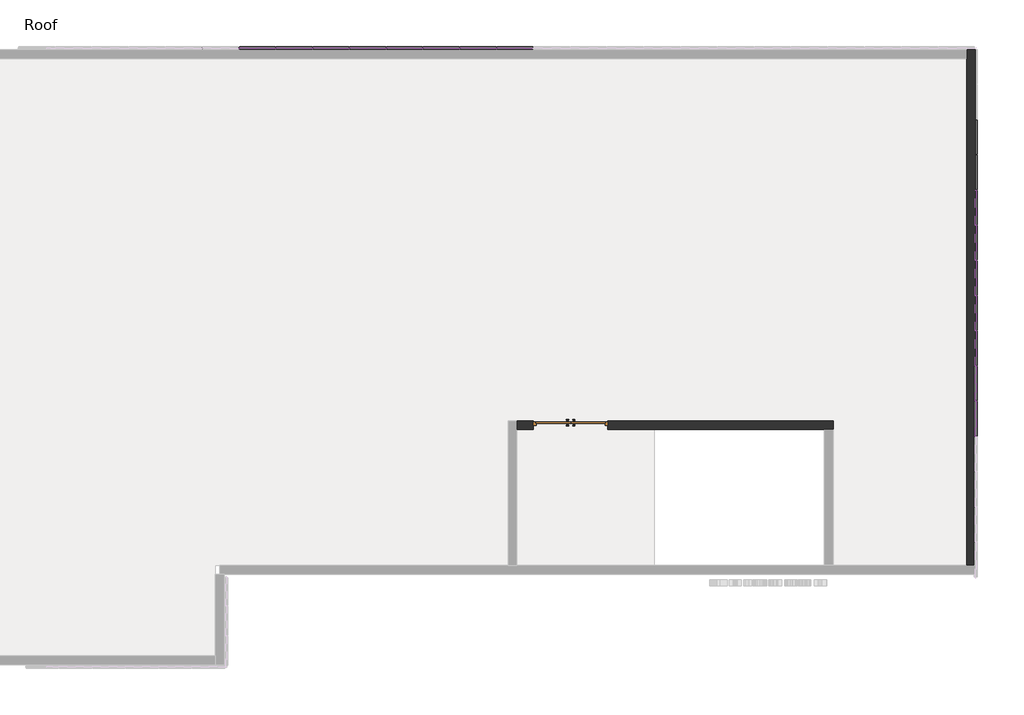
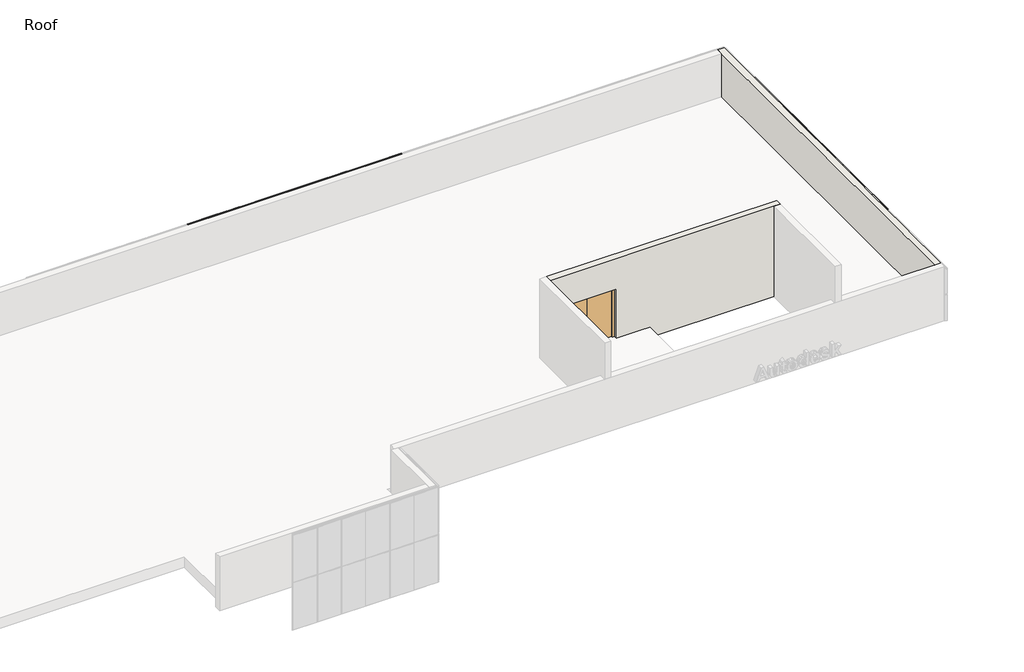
# One storey, part 4 of 5: 79 members, 34 plates, 2 walls, 1 door.
"""IFC4 building model written with IfcOpenShell, lengths in millimetres."""

from ifc_helpers import new_model, si_unit, origin, place, context, project, spatial, faceted_brep, transform, mapped, element, save
from components import doors_extdbl_flush_fire_escape_1810x2110mm_d119a109, rectangular_mullion_25x25mm_ef735152, rectangular_mullion_25x25mm_e862664b, rectangular_mullion_25x25mm_75dba7a0, rectangular_mullion_25x25mm_4965c664, rectangular_mullion_25x25mm_c76a5620, curtain_panels_solid_solid_panel_green_f9f5bd6f, curtain_panels_solid_solid_panel_green_e697928e

model = new_model("IFC4")

# Units and contexts
model_context = context("Model", 3, world=origin())
ifc_project = project(units=[si_unit("LENGTHUNIT", "METRE", prefix="MILLI")], contexts=[model_context])

# Site, building, storey
site = spatial("IfcSite", under=ifc_project)
building = spatial("IfcBuilding", under=site)
storey = spatial("IfcBuildingStorey", under=building, Name="Roof", Elevation=14600.0)

# Door
placement = place(None, origin())
doors_extdbl_flush_fire_escape_1810x2110mm_shape = doors_extdbl_flush_fire_escape_1810x2110mm_d119a109(model_context)
element("IfcDoor", 1, ObjectType="Doors_ExtDbl_Flush_Fire_Escape : 1810x2110mm", at=placement, inside=storey, context=model_context, shape_type="MappedRepresentation", body=[
    mapped(doors_extdbl_flush_fire_escape_1810x2110mm_shape, transform((33256.9942371, 149.3025492, 14600.0), x_axis=(-1.0, 0.0, 0.0), y_axis=(0.0, -1.0, 0.0), z_axis=(0.0, 0.0, 1.0))),
])

# Members
rectangular_mullion_25x25mm_shape = rectangular_mullion_25x25mm_ef735152(model_context)
element("IfcMember", 2, ObjectType="Rectangular Mullion : 25x25mm", at=placement, inside=storey, context=model_context, shape_type="MappedRepresentation", body=[
    mapped(rectangular_mullion_25x25mm_shape, transform((24301.6172819, 9309.2487558, 14625.0), x_axis=(-1.0, 0.0, 0.0), y_axis=(0.0, 1.0, 0.0), z_axis=(0.0, 0.0, -1.0))),
])
element("IfcMember", 3, ObjectType="Rectangular Mullion : 25x25mm", at=placement, inside=storey, context=model_context, shape_type="MappedRepresentation", body=[
    mapped(rectangular_mullion_25x25mm_shape, transform((25195.8876131, 9309.2487558, 14625.0), x_axis=(-1.0, 0.0, 0.0), y_axis=(0.0, 1.0, 0.0), z_axis=(0.0, 0.0, -1.0))),
])
element("IfcMember", 4, ObjectType="Rectangular Mullion : 25x25mm", at=placement, inside=storey, context=model_context, shape_type="MappedRepresentation", body=[
    mapped(rectangular_mullion_25x25mm_shape, transform((26090.1579442, 9309.2487558, 14625.0), x_axis=(-1.0, 0.0, 0.0), y_axis=(0.0, 1.0, 0.0), z_axis=(0.0, 0.0, -1.0))),
])
element("IfcMember", 5, ObjectType="Rectangular Mullion : 25x25mm", at=placement, inside=storey, context=model_context, shape_type="MappedRepresentation", body=[
    mapped(rectangular_mullion_25x25mm_shape, transform((26984.4282754, 9309.2487558, 14625.0), x_axis=(-1.0, 0.0, 0.0), y_axis=(0.0, 1.0, 0.0), z_axis=(0.0, 0.0, -1.0))),
])
element("IfcMember", 6, ObjectType="Rectangular Mullion : 25x25mm", at=placement, inside=storey, context=model_context, shape_type="MappedRepresentation", body=[
    mapped(rectangular_mullion_25x25mm_shape, transform((27878.6986066, 9309.2487558, 14625.0), x_axis=(-1.0, 0.0, 0.0), y_axis=(0.0, 1.0, 0.0), z_axis=(0.0, 0.0, -1.0))),
])
element("IfcMember", 7, ObjectType="Rectangular Mullion : 25x25mm", at=placement, inside=storey, context=model_context, shape_type="MappedRepresentation", body=[
    mapped(rectangular_mullion_25x25mm_shape, transform((28772.9689377, 9309.2487558, 14625.0), x_axis=(-1.0, 0.0, 0.0), y_axis=(0.0, 1.0, 0.0), z_axis=(0.0, 0.0, -1.0))),
])
element("IfcMember", 8, ObjectType="Rectangular Mullion : 25x25mm", at=placement, inside=storey, context=model_context, shape_type="MappedRepresentation", body=[
    mapped(rectangular_mullion_25x25mm_shape, transform((29667.2392689, 9309.2487558, 14625.0), x_axis=(-1.0, 0.0, 0.0), y_axis=(0.0, 1.0, 0.0), z_axis=(0.0, 0.0, -1.0))),
])
element("IfcMember", 9, ObjectType="Rectangular Mullion : 25x25mm", at=placement, inside=storey, context=model_context, shape_type="MappedRepresentation", body=[
    mapped(rectangular_mullion_25x25mm_shape, transform((30561.5096001, 9309.2487558, 14625.0), x_axis=(-1.0, 0.0, 0.0), y_axis=(0.0, 1.0, 0.0), z_axis=(0.0, 0.0, -1.0))),
])
element("IfcMember", 10, ObjectType="Rectangular Mullion : 25x25mm", at=placement, inside=storey, context=model_context, shape_type="MappedRepresentation", body=[
    mapped(rectangular_mullion_25x25mm_shape, transform((31455.7799312, 9309.2487558, 14625.0), x_axis=(-1.0, 0.0, 0.0), y_axis=(0.0, 1.0, 0.0), z_axis=(0.0, 0.0, -1.0))),
])
element("IfcMember", 11, ObjectType="Rectangular Mullion : 25x25mm", at=placement, inside=storey, context=model_context, shape_type="MappedRepresentation", body=[
    mapped(rectangular_mullion_25x25mm_shape, transform((43093.7942367, 5871.6143299, 14625.0), x_axis=(0.0, 1.0, 0.0), y_axis=(1.0, 0.0, 0.0), z_axis=(0.0, 0.0, -1.0))),
])
element("IfcMember", 12, ObjectType="Rectangular Mullion : 25x25mm", at=placement, inside=storey, context=model_context, shape_type="MappedRepresentation", body=[
    mapped(rectangular_mullion_25x25mm_shape, transform((43093.7942367, 5015.3307235, 14625.0), x_axis=(0.0, 1.0, 0.0), y_axis=(1.0, 0.0, 0.0), z_axis=(0.0, 0.0, -1.0))),
])
element("IfcMember", 13, ObjectType="Rectangular Mullion : 25x25mm", at=placement, inside=storey, context=model_context, shape_type="MappedRepresentation", body=[
    mapped(rectangular_mullion_25x25mm_shape, transform((43093.7942367, 4159.0471171, 14625.0), x_axis=(0.0, 1.0, 0.0), y_axis=(1.0, 0.0, 0.0), z_axis=(0.0, 0.0, -1.0))),
])
element("IfcMember", 14, ObjectType="Rectangular Mullion : 25x25mm", at=placement, inside=storey, context=model_context, shape_type="MappedRepresentation", body=[
    mapped(rectangular_mullion_25x25mm_shape, transform((43093.7942367, 3302.7635107, 14625.0), x_axis=(0.0, 1.0, 0.0), y_axis=(1.0, 0.0, 0.0), z_axis=(0.0, 0.0, -1.0))),
])
element("IfcMember", 15, ObjectType="Rectangular Mullion : 25x25mm", at=placement, inside=storey, context=model_context, shape_type="MappedRepresentation", body=[
    mapped(rectangular_mullion_25x25mm_shape, transform((43093.7942367, 2446.4799043, 14625.0), x_axis=(0.0, 1.0, 0.0), y_axis=(1.0, 0.0, 0.0), z_axis=(0.0, 0.0, -1.0))),
])
element("IfcMember", 16, ObjectType="Rectangular Mullion : 25x25mm", at=placement, inside=storey, context=model_context, shape_type="MappedRepresentation", body=[
    mapped(rectangular_mullion_25x25mm_shape, transform((43093.7942367, 1590.1962979, 14625.0), x_axis=(0.0, 1.0, 0.0), y_axis=(1.0, 0.0, 0.0), z_axis=(0.0, 0.0, -1.0))),
])
element("IfcMember", 17, ObjectType="Rectangular Mullion : 25x25mm", at=placement, inside=storey, context=model_context, shape_type="MappedRepresentation", body=[
    mapped(rectangular_mullion_25x25mm_shape, transform((43093.7942367, 733.9126915, 14625.0), x_axis=(0.0, 1.0, 0.0), y_axis=(1.0, 0.0, 0.0), z_axis=(0.0, 0.0, -1.0))),
])
element("IfcMember", 18, ObjectType="Rectangular Mullion : 25x25mm", at=placement, inside=storey, context=model_context, shape_type="MappedRepresentation", body=[
    mapped(rectangular_mullion_25x25mm_shape, transform((24301.6172819, 9309.2487558, 15550.0), x_axis=(-1.0, 0.0, 0.0), y_axis=(0.0, 1.0, 0.0), z_axis=(0.0, 0.0, -1.0))),
])
element("IfcMember", 19, ObjectType="Rectangular Mullion : 25x25mm", at=placement, inside=storey, context=model_context, shape_type="MappedRepresentation", body=[
    mapped(rectangular_mullion_25x25mm_shape, transform((25195.8876131, 9309.2487558, 15550.0), x_axis=(-1.0, 0.0, 0.0), y_axis=(0.0, 1.0, 0.0), z_axis=(0.0, 0.0, -1.0))),
])
element("IfcMember", 20, ObjectType="Rectangular Mullion : 25x25mm", at=placement, inside=storey, context=model_context, shape_type="MappedRepresentation", body=[
    mapped(rectangular_mullion_25x25mm_shape, transform((26090.1579442, 9309.2487558, 15550.0), x_axis=(-1.0, 0.0, 0.0), y_axis=(0.0, 1.0, 0.0), z_axis=(0.0, 0.0, -1.0))),
])
element("IfcMember", 21, ObjectType="Rectangular Mullion : 25x25mm", at=placement, inside=storey, context=model_context, shape_type="MappedRepresentation", body=[
    mapped(rectangular_mullion_25x25mm_shape, transform((26984.4282754, 9309.2487558, 15550.0), x_axis=(-1.0, 0.0, 0.0), y_axis=(0.0, 1.0, 0.0), z_axis=(0.0, 0.0, -1.0))),
])
element("IfcMember", 22, ObjectType="Rectangular Mullion : 25x25mm", at=placement, inside=storey, context=model_context, shape_type="MappedRepresentation", body=[
    mapped(rectangular_mullion_25x25mm_shape, transform((27878.6986066, 9309.2487558, 15550.0), x_axis=(-1.0, 0.0, 0.0), y_axis=(0.0, 1.0, 0.0), z_axis=(0.0, 0.0, -1.0))),
])
element("IfcMember", 23, ObjectType="Rectangular Mullion : 25x25mm", at=placement, inside=storey, context=model_context, shape_type="MappedRepresentation", body=[
    mapped(rectangular_mullion_25x25mm_shape, transform((28772.9689377, 9309.2487558, 15550.0), x_axis=(-1.0, 0.0, 0.0), y_axis=(0.0, 1.0, 0.0), z_axis=(0.0, 0.0, -1.0))),
])
element("IfcMember", 24, ObjectType="Rectangular Mullion : 25x25mm", at=placement, inside=storey, context=model_context, shape_type="MappedRepresentation", body=[
    mapped(rectangular_mullion_25x25mm_shape, transform((29667.2392689, 9309.2487558, 15550.0), x_axis=(-1.0, 0.0, 0.0), y_axis=(0.0, 1.0, 0.0), z_axis=(0.0, 0.0, -1.0))),
])
element("IfcMember", 25, ObjectType="Rectangular Mullion : 25x25mm", at=placement, inside=storey, context=model_context, shape_type="MappedRepresentation", body=[
    mapped(rectangular_mullion_25x25mm_shape, transform((30561.5096001, 9309.2487558, 15550.0), x_axis=(-1.0, 0.0, 0.0), y_axis=(0.0, 1.0, 0.0), z_axis=(0.0, 0.0, -1.0))),
])
element("IfcMember", 26, ObjectType="Rectangular Mullion : 25x25mm", at=placement, inside=storey, context=model_context, shape_type="MappedRepresentation", body=[
    mapped(rectangular_mullion_25x25mm_shape, transform((31455.7799312, 9309.2487558, 15550.0), x_axis=(-1.0, 0.0, 0.0), y_axis=(0.0, 1.0, 0.0), z_axis=(0.0, 0.0, -1.0))),
])
element("IfcMember", 27, ObjectType="Rectangular Mullion : 25x25mm", at=placement, inside=storey, context=model_context, shape_type="MappedRepresentation", body=[
    mapped(rectangular_mullion_25x25mm_shape, transform((43093.7942367, 5871.6143299, 15550.0), x_axis=(0.0, 1.0, 0.0), y_axis=(1.0, 0.0, 0.0), z_axis=(0.0, 0.0, -1.0))),
])
element("IfcMember", 28, ObjectType="Rectangular Mullion : 25x25mm", at=placement, inside=storey, context=model_context, shape_type="MappedRepresentation", body=[
    mapped(rectangular_mullion_25x25mm_shape, transform((43093.7942367, 5015.3307235, 15550.0), x_axis=(0.0, 1.0, 0.0), y_axis=(1.0, 0.0, 0.0), z_axis=(0.0, 0.0, -1.0))),
])
element("IfcMember", 29, ObjectType="Rectangular Mullion : 25x25mm", at=placement, inside=storey, context=model_context, shape_type="MappedRepresentation", body=[
    mapped(rectangular_mullion_25x25mm_shape, transform((43093.7942367, 4159.0471171, 15550.0), x_axis=(0.0, 1.0, 0.0), y_axis=(1.0, 0.0, 0.0), z_axis=(0.0, 0.0, -1.0))),
])
element("IfcMember", 30, ObjectType="Rectangular Mullion : 25x25mm", at=placement, inside=storey, context=model_context, shape_type="MappedRepresentation", body=[
    mapped(rectangular_mullion_25x25mm_shape, transform((43093.7942367, 3302.7635107, 15550.0), x_axis=(0.0, 1.0, 0.0), y_axis=(1.0, 0.0, 0.0), z_axis=(0.0, 0.0, -1.0))),
])
element("IfcMember", 31, ObjectType="Rectangular Mullion : 25x25mm", at=placement, inside=storey, context=model_context, shape_type="MappedRepresentation", body=[
    mapped(rectangular_mullion_25x25mm_shape, transform((43093.7942367, 2446.4799043, 15550.0), x_axis=(0.0, 1.0, 0.0), y_axis=(1.0, 0.0, 0.0), z_axis=(0.0, 0.0, -1.0))),
])
element("IfcMember", 32, ObjectType="Rectangular Mullion : 25x25mm", at=placement, inside=storey, context=model_context, shape_type="MappedRepresentation", body=[
    mapped(rectangular_mullion_25x25mm_shape, transform((43093.7942367, 1590.1962979, 15550.0), x_axis=(0.0, 1.0, 0.0), y_axis=(1.0, 0.0, 0.0), z_axis=(0.0, 0.0, -1.0))),
])
element("IfcMember", 33, ObjectType="Rectangular Mullion : 25x25mm", at=placement, inside=storey, context=model_context, shape_type="MappedRepresentation", body=[
    mapped(rectangular_mullion_25x25mm_shape, transform((43093.7942367, 733.9126915, 15550.0), x_axis=(0.0, 1.0, 0.0), y_axis=(1.0, 0.0, 0.0), z_axis=(0.0, 0.0, -1.0))),
])
rectangular_mullion_25x25mm_2_shape = rectangular_mullion_25x25mm_e862664b(model_context)
element("IfcMember", 34, ObjectType="Rectangular Mullion : 25x25mm", at=placement, inside=storey, context=model_context, shape_type="MappedRepresentation", body=[
    mapped(rectangular_mullion_25x25mm_2_shape, transform((31455.7799312, 9309.2487558, 16500.0), x_axis=(0.0, 0.0, 1.0), y_axis=(0.0, 1.0, 0.0), z_axis=(-1.0, 0.0, 0.0))),
])
element("IfcMember", 35, ObjectType="Rectangular Mullion : 25x25mm", at=placement, inside=storey, context=model_context, shape_type="MappedRepresentation", body=[
    mapped(rectangular_mullion_25x25mm_2_shape, transform((30561.5096001, 9309.2487558, 16500.0), x_axis=(0.0, 0.0, 1.0), y_axis=(0.0, 1.0, 0.0), z_axis=(-1.0, 0.0, 0.0))),
])
element("IfcMember", 36, ObjectType="Rectangular Mullion : 25x25mm", at=placement, inside=storey, context=model_context, shape_type="MappedRepresentation", body=[
    mapped(rectangular_mullion_25x25mm_2_shape, transform((29667.2392689, 9309.2487558, 16500.0), x_axis=(0.0, 0.0, 1.0), y_axis=(0.0, 1.0, 0.0), z_axis=(-1.0, 0.0, 0.0))),
])
element("IfcMember", 37, ObjectType="Rectangular Mullion : 25x25mm", at=placement, inside=storey, context=model_context, shape_type="MappedRepresentation", body=[
    mapped(rectangular_mullion_25x25mm_2_shape, transform((28772.9689377, 9309.2487558, 16500.0), x_axis=(0.0, 0.0, 1.0), y_axis=(0.0, 1.0, 0.0), z_axis=(-1.0, 0.0, 0.0))),
])
element("IfcMember", 38, ObjectType="Rectangular Mullion : 25x25mm", at=placement, inside=storey, context=model_context, shape_type="MappedRepresentation", body=[
    mapped(rectangular_mullion_25x25mm_2_shape, transform((27878.6986066, 9309.2487558, 16500.0), x_axis=(0.0, 0.0, 1.0), y_axis=(0.0, 1.0, 0.0), z_axis=(-1.0, 0.0, 0.0))),
])
element("IfcMember", 39, ObjectType="Rectangular Mullion : 25x25mm", at=placement, inside=storey, context=model_context, shape_type="MappedRepresentation", body=[
    mapped(rectangular_mullion_25x25mm_2_shape, transform((26984.4282754, 9309.2487558, 16500.0), x_axis=(0.0, 0.0, 1.0), y_axis=(0.0, 1.0, 0.0), z_axis=(-1.0, 0.0, 0.0))),
])
element("IfcMember", 40, ObjectType="Rectangular Mullion : 25x25mm", at=placement, inside=storey, context=model_context, shape_type="MappedRepresentation", body=[
    mapped(rectangular_mullion_25x25mm_2_shape, transform((26090.1579442, 9309.2487558, 16500.0), x_axis=(0.0, 0.0, 1.0), y_axis=(0.0, 1.0, 0.0), z_axis=(-1.0, 0.0, 0.0))),
])
element("IfcMember", 41, ObjectType="Rectangular Mullion : 25x25mm", at=placement, inside=storey, context=model_context, shape_type="MappedRepresentation", body=[
    mapped(rectangular_mullion_25x25mm_2_shape, transform((25195.8876131, 9309.2487558, 16500.0), x_axis=(0.0, 0.0, 1.0), y_axis=(0.0, 1.0, 0.0), z_axis=(-1.0, 0.0, 0.0))),
])
element("IfcMember", 42, ObjectType="Rectangular Mullion : 25x25mm", at=placement, inside=storey, context=model_context, shape_type="MappedRepresentation", body=[
    mapped(rectangular_mullion_25x25mm_2_shape, transform((31455.7799312, 9309.2487558, 14600.0), x_axis=(0.0, 0.0, -1.0), y_axis=(0.0, 1.0, 0.0), z_axis=(1.0, 0.0, 0.0))),
])
element("IfcMember", 43, ObjectType="Rectangular Mullion : 25x25mm", at=placement, inside=storey, context=model_context, shape_type="MappedRepresentation", body=[
    mapped(rectangular_mullion_25x25mm_2_shape, transform((30561.5096001, 9309.2487558, 14600.0), x_axis=(0.0, 0.0, -1.0), y_axis=(0.0, 1.0, 0.0), z_axis=(1.0, 0.0, 0.0))),
])
element("IfcMember", 44, ObjectType="Rectangular Mullion : 25x25mm", at=placement, inside=storey, context=model_context, shape_type="MappedRepresentation", body=[
    mapped(rectangular_mullion_25x25mm_2_shape, transform((29667.2392689, 9309.2487558, 14600.0), x_axis=(0.0, 0.0, -1.0), y_axis=(0.0, 1.0, 0.0), z_axis=(1.0, 0.0, 0.0))),
])
element("IfcMember", 45, ObjectType="Rectangular Mullion : 25x25mm", at=placement, inside=storey, context=model_context, shape_type="MappedRepresentation", body=[
    mapped(rectangular_mullion_25x25mm_2_shape, transform((28772.9689377, 9309.2487558, 14600.0), x_axis=(0.0, 0.0, -1.0), y_axis=(0.0, 1.0, 0.0), z_axis=(1.0, 0.0, 0.0))),
])
element("IfcMember", 46, ObjectType="Rectangular Mullion : 25x25mm", at=placement, inside=storey, context=model_context, shape_type="MappedRepresentation", body=[
    mapped(rectangular_mullion_25x25mm_2_shape, transform((27878.6986066, 9309.2487558, 14600.0), x_axis=(0.0, 0.0, -1.0), y_axis=(0.0, 1.0, 0.0), z_axis=(1.0, 0.0, 0.0))),
])
element("IfcMember", 47, ObjectType="Rectangular Mullion : 25x25mm", at=placement, inside=storey, context=model_context, shape_type="MappedRepresentation", body=[
    mapped(rectangular_mullion_25x25mm_2_shape, transform((26984.4282754, 9309.2487558, 14600.0), x_axis=(0.0, 0.0, -1.0), y_axis=(0.0, 1.0, 0.0), z_axis=(1.0, 0.0, 0.0))),
])
element("IfcMember", 48, ObjectType="Rectangular Mullion : 25x25mm", at=placement, inside=storey, context=model_context, shape_type="MappedRepresentation", body=[
    mapped(rectangular_mullion_25x25mm_2_shape, transform((26090.1579442, 9309.2487558, 14600.0), x_axis=(0.0, 0.0, -1.0), y_axis=(0.0, 1.0, 0.0), z_axis=(1.0, 0.0, 0.0))),
])
element("IfcMember", 49, ObjectType="Rectangular Mullion : 25x25mm", at=placement, inside=storey, context=model_context, shape_type="MappedRepresentation", body=[
    mapped(rectangular_mullion_25x25mm_2_shape, transform((25195.8876131, 9309.2487558, 14600.0), x_axis=(0.0, 0.0, -1.0), y_axis=(0.0, 1.0, 0.0), z_axis=(1.0, 0.0, 0.0))),
])
rectangular_mullion_25x25mm_3_shape = rectangular_mullion_25x25mm_75dba7a0(model_context)
element("IfcMember", 50, ObjectType="Rectangular Mullion : 25x25mm", at=placement, inside=storey, context=model_context, shape_type="MappedRepresentation", body=[
    mapped(rectangular_mullion_25x25mm_3_shape, transform((31468.2799312, 9309.2487558, 15550.0), x_axis=(0.0, 0.0, 1.0), y_axis=(0.0, 1.0, 0.0), z_axis=(-1.0, 0.0, 0.0))),
])
element("IfcMember", 51, ObjectType="Rectangular Mullion : 25x25mm", at=placement, inside=storey, context=model_context, shape_type="MappedRepresentation", body=[
    mapped(rectangular_mullion_25x25mm_3_shape, transform((30574.0096001, 9309.2487558, 15550.0), x_axis=(0.0, 0.0, 1.0), y_axis=(0.0, 1.0, 0.0), z_axis=(-1.0, 0.0, 0.0))),
])
element("IfcMember", 52, ObjectType="Rectangular Mullion : 25x25mm", at=placement, inside=storey, context=model_context, shape_type="MappedRepresentation", body=[
    mapped(rectangular_mullion_25x25mm_3_shape, transform((29679.7392689, 9309.2487558, 15550.0), x_axis=(0.0, 0.0, 1.0), y_axis=(0.0, 1.0, 0.0), z_axis=(-1.0, 0.0, 0.0))),
])
element("IfcMember", 53, ObjectType="Rectangular Mullion : 25x25mm", at=placement, inside=storey, context=model_context, shape_type="MappedRepresentation", body=[
    mapped(rectangular_mullion_25x25mm_3_shape, transform((28785.4689377, 9309.2487558, 15550.0), x_axis=(0.0, 0.0, 1.0), y_axis=(0.0, 1.0, 0.0), z_axis=(-1.0, 0.0, 0.0))),
])
element("IfcMember", 54, ObjectType="Rectangular Mullion : 25x25mm", at=placement, inside=storey, context=model_context, shape_type="MappedRepresentation", body=[
    mapped(rectangular_mullion_25x25mm_3_shape, transform((27891.1986066, 9309.2487558, 15550.0), x_axis=(0.0, 0.0, 1.0), y_axis=(0.0, 1.0, 0.0), z_axis=(-1.0, 0.0, 0.0))),
])
element("IfcMember", 55, ObjectType="Rectangular Mullion : 25x25mm", at=placement, inside=storey, context=model_context, shape_type="MappedRepresentation", body=[
    mapped(rectangular_mullion_25x25mm_3_shape, transform((26996.9282754, 9309.2487558, 15550.0), x_axis=(0.0, 0.0, 1.0), y_axis=(0.0, 1.0, 0.0), z_axis=(-1.0, 0.0, 0.0))),
])
element("IfcMember", 56, ObjectType="Rectangular Mullion : 25x25mm", at=placement, inside=storey, context=model_context, shape_type="MappedRepresentation", body=[
    mapped(rectangular_mullion_25x25mm_3_shape, transform((26102.6579442, 9309.2487558, 15550.0), x_axis=(0.0, 0.0, 1.0), y_axis=(0.0, 1.0, 0.0), z_axis=(-1.0, 0.0, 0.0))),
])
element("IfcMember", 57, ObjectType="Rectangular Mullion : 25x25mm", at=placement, inside=storey, context=model_context, shape_type="MappedRepresentation", body=[
    mapped(rectangular_mullion_25x25mm_3_shape, transform((25208.3876131, 9309.2487558, 15550.0), x_axis=(0.0, 0.0, 1.0), y_axis=(0.0, 1.0, 0.0), z_axis=(-1.0, 0.0, 0.0))),
])
element("IfcMember", 58, ObjectType="Rectangular Mullion : 25x25mm", at=placement, inside=storey, context=model_context, shape_type="MappedRepresentation", body=[
    mapped(rectangular_mullion_25x25mm_3_shape, transform((24314.1172819, 9309.2487558, 15550.0), x_axis=(0.0, 0.0, 1.0), y_axis=(0.0, 1.0, 0.0), z_axis=(-1.0, 0.0, 0.0))),
])
rectangular_mullion_25x25mm_4_shape = rectangular_mullion_25x25mm_4965c664(model_context)
element("IfcMember", 59, ObjectType="Rectangular Mullion : 25x25mm", at=placement, inside=storey, context=model_context, shape_type="MappedRepresentation", body=[
    mapped(rectangular_mullion_25x25mm_4_shape, transform((43093.7942367, 733.9126915, 16500.0), x_axis=(0.0, 0.0, 1.0), y_axis=(1.0, 0.0, 0.0), z_axis=(0.0, 1.0, 0.0))),
])
element("IfcMember", 60, ObjectType="Rectangular Mullion : 25x25mm", at=placement, inside=storey, context=model_context, shape_type="MappedRepresentation", body=[
    mapped(rectangular_mullion_25x25mm_4_shape, transform((43093.7942367, 1590.1962979, 16500.0), x_axis=(0.0, 0.0, 1.0), y_axis=(1.0, 0.0, 0.0), z_axis=(0.0, 1.0, 0.0))),
])
element("IfcMember", 61, ObjectType="Rectangular Mullion : 25x25mm", at=placement, inside=storey, context=model_context, shape_type="MappedRepresentation", body=[
    mapped(rectangular_mullion_25x25mm_4_shape, transform((43093.7942367, 2446.4799043, 16500.0), x_axis=(0.0, 0.0, 1.0), y_axis=(1.0, 0.0, 0.0), z_axis=(0.0, 1.0, 0.0))),
])
element("IfcMember", 62, ObjectType="Rectangular Mullion : 25x25mm", at=placement, inside=storey, context=model_context, shape_type="MappedRepresentation", body=[
    mapped(rectangular_mullion_25x25mm_4_shape, transform((43093.7942367, 3302.7635107, 16500.0), x_axis=(0.0, 0.0, 1.0), y_axis=(1.0, 0.0, 0.0), z_axis=(0.0, 1.0, 0.0))),
])
element("IfcMember", 63, ObjectType="Rectangular Mullion : 25x25mm", at=placement, inside=storey, context=model_context, shape_type="MappedRepresentation", body=[
    mapped(rectangular_mullion_25x25mm_4_shape, transform((43093.7942367, 4159.0471171, 16500.0), x_axis=(0.0, 0.0, 1.0), y_axis=(1.0, 0.0, 0.0), z_axis=(0.0, 1.0, 0.0))),
])
element("IfcMember", 64, ObjectType="Rectangular Mullion : 25x25mm", at=placement, inside=storey, context=model_context, shape_type="MappedRepresentation", body=[
    mapped(rectangular_mullion_25x25mm_4_shape, transform((43093.7942367, 5015.3307235, 16500.0), x_axis=(0.0, 0.0, 1.0), y_axis=(1.0, 0.0, 0.0), z_axis=(0.0, 1.0, 0.0))),
])
element("IfcMember", 65, ObjectType="Rectangular Mullion : 25x25mm", at=placement, inside=storey, context=model_context, shape_type="MappedRepresentation", body=[
    mapped(rectangular_mullion_25x25mm_4_shape, transform((43093.7942367, 5871.6143299, 16500.0), x_axis=(0.0, 0.0, 1.0), y_axis=(1.0, 0.0, 0.0), z_axis=(0.0, 1.0, 0.0))),
])
element("IfcMember", 66, ObjectType="Rectangular Mullion : 25x25mm", at=placement, inside=storey, context=model_context, shape_type="MappedRepresentation", body=[
    mapped(rectangular_mullion_25x25mm_4_shape, transform((43093.7942367, 733.9126915, 14600.0), x_axis=(0.0, 0.0, -1.0), y_axis=(1.0, 0.0, 0.0), z_axis=(0.0, -1.0, 0.0))),
])
element("IfcMember", 67, ObjectType="Rectangular Mullion : 25x25mm", at=placement, inside=storey, context=model_context, shape_type="MappedRepresentation", body=[
    mapped(rectangular_mullion_25x25mm_4_shape, transform((43093.7942367, 1590.1962979, 14600.0), x_axis=(0.0, 0.0, -1.0), y_axis=(1.0, 0.0, 0.0), z_axis=(0.0, -1.0, 0.0))),
])
element("IfcMember", 68, ObjectType="Rectangular Mullion : 25x25mm", at=placement, inside=storey, context=model_context, shape_type="MappedRepresentation", body=[
    mapped(rectangular_mullion_25x25mm_4_shape, transform((43093.7942367, 2446.4799043, 14600.0), x_axis=(0.0, 0.0, -1.0), y_axis=(1.0, 0.0, 0.0), z_axis=(0.0, -1.0, 0.0))),
])
element("IfcMember", 69, ObjectType="Rectangular Mullion : 25x25mm", at=placement, inside=storey, context=model_context, shape_type="MappedRepresentation", body=[
    mapped(rectangular_mullion_25x25mm_4_shape, transform((43093.7942367, 3302.7635107, 14600.0), x_axis=(0.0, 0.0, -1.0), y_axis=(1.0, 0.0, 0.0), z_axis=(0.0, -1.0, 0.0))),
])
element("IfcMember", 70, ObjectType="Rectangular Mullion : 25x25mm", at=placement, inside=storey, context=model_context, shape_type="MappedRepresentation", body=[
    mapped(rectangular_mullion_25x25mm_4_shape, transform((43093.7942367, 4159.0471171, 14600.0), x_axis=(0.0, 0.0, -1.0), y_axis=(1.0, 0.0, 0.0), z_axis=(0.0, -1.0, 0.0))),
])
element("IfcMember", 71, ObjectType="Rectangular Mullion : 25x25mm", at=placement, inside=storey, context=model_context, shape_type="MappedRepresentation", body=[
    mapped(rectangular_mullion_25x25mm_4_shape, transform((43093.7942367, 5015.3307235, 14600.0), x_axis=(0.0, 0.0, -1.0), y_axis=(1.0, 0.0, 0.0), z_axis=(0.0, -1.0, 0.0))),
])
element("IfcMember", 72, ObjectType="Rectangular Mullion : 25x25mm", at=placement, inside=storey, context=model_context, shape_type="MappedRepresentation", body=[
    mapped(rectangular_mullion_25x25mm_4_shape, transform((43093.7942367, 5871.6143299, 14600.0), x_axis=(0.0, 0.0, -1.0), y_axis=(1.0, 0.0, 0.0), z_axis=(0.0, -1.0, 0.0))),
])
rectangular_mullion_25x25mm_5_shape = rectangular_mullion_25x25mm_c76a5620(model_context)
element("IfcMember", 73, ObjectType="Rectangular Mullion : 25x25mm", at=placement, inside=storey, context=model_context, shape_type="MappedRepresentation", body=[
    mapped(rectangular_mullion_25x25mm_5_shape, transform((43093.7942367, 721.4126915, 15550.0), x_axis=(0.0, 0.0, 1.0), y_axis=(1.0, 0.0, 0.0), z_axis=(0.0, 1.0, 0.0))),
])
element("IfcMember", 74, ObjectType="Rectangular Mullion : 25x25mm", at=placement, inside=storey, context=model_context, shape_type="MappedRepresentation", body=[
    mapped(rectangular_mullion_25x25mm_5_shape, transform((43093.7942367, 1577.6962979, 15550.0), x_axis=(0.0, 0.0, 1.0), y_axis=(1.0, 0.0, 0.0), z_axis=(0.0, 1.0, 0.0))),
])
element("IfcMember", 75, ObjectType="Rectangular Mullion : 25x25mm", at=placement, inside=storey, context=model_context, shape_type="MappedRepresentation", body=[
    mapped(rectangular_mullion_25x25mm_5_shape, transform((43093.7942367, 2433.9799043, 15550.0), x_axis=(0.0, 0.0, 1.0), y_axis=(1.0, 0.0, 0.0), z_axis=(0.0, 1.0, 0.0))),
])
element("IfcMember", 76, ObjectType="Rectangular Mullion : 25x25mm", at=placement, inside=storey, context=model_context, shape_type="MappedRepresentation", body=[
    mapped(rectangular_mullion_25x25mm_5_shape, transform((43093.7942367, 3290.2635107, 15550.0), x_axis=(0.0, 0.0, 1.0), y_axis=(1.0, 0.0, 0.0), z_axis=(0.0, 1.0, 0.0))),
])
element("IfcMember", 77, ObjectType="Rectangular Mullion : 25x25mm", at=placement, inside=storey, context=model_context, shape_type="MappedRepresentation", body=[
    mapped(rectangular_mullion_25x25mm_5_shape, transform((43093.7942367, 4146.5471171, 15550.0), x_axis=(0.0, 0.0, 1.0), y_axis=(1.0, 0.0, 0.0), z_axis=(0.0, 1.0, 0.0))),
])
element("IfcMember", 78, ObjectType="Rectangular Mullion : 25x25mm", at=placement, inside=storey, context=model_context, shape_type="MappedRepresentation", body=[
    mapped(rectangular_mullion_25x25mm_5_shape, transform((43093.7942367, 5002.8307235, 15550.0), x_axis=(0.0, 0.0, 1.0), y_axis=(1.0, 0.0, 0.0), z_axis=(0.0, 1.0, 0.0))),
])
element("IfcMember", 79, ObjectType="Rectangular Mullion : 25x25mm", at=placement, inside=storey, context=model_context, shape_type="MappedRepresentation", body=[
    mapped(rectangular_mullion_25x25mm_5_shape, transform((43093.7942367, 5859.1143299, 15550.0), x_axis=(0.0, 0.0, 1.0), y_axis=(1.0, 0.0, 0.0), z_axis=(0.0, 1.0, 0.0))),
])
element("IfcMember", 80, ObjectType="Rectangular Mullion : 25x25mm", at=placement, inside=storey, context=model_context, shape_type="MappedRepresentation", body=[
    mapped(rectangular_mullion_25x25mm_5_shape, transform((43093.7942367, 6715.3979363, 15550.0), x_axis=(0.0, 0.0, 1.0), y_axis=(1.0, 0.0, 0.0), z_axis=(0.0, 1.0, 0.0))),
])

# Plates
curtain_panels_solid_solid_panel_green_shape = curtain_panels_solid_solid_panel_green_f9f5bd6f(model_context)
element("IfcPlate", 81, ObjectType="Curtain_Panels_Solid : Solid_Panel_Green", at=placement, inside=storey, context=model_context, shape_type="MappedRepresentation", body=[
    mapped(curtain_panels_solid_solid_panel_green_shape, transform((25643.0227787, 9309.2487558, 14625.0), x_axis=(-1.0, 0.0, 0.0), y_axis=(0.0, -1.0, 0.0), z_axis=(0.0, 0.0, 1.0))),
])
element("IfcPlate", 82, ObjectType="Curtain_Panels_Solid : Solid_Panel_Green", at=placement, inside=storey, context=model_context, shape_type="MappedRepresentation", body=[
    mapped(curtain_panels_solid_solid_panel_green_shape, transform((25643.0227787, 9309.2487558, 15562.5), x_axis=(-1.0, 0.0, 0.0), y_axis=(0.0, -1.0, 0.0), z_axis=(0.0, 0.0, 1.0))),
])
element("IfcPlate", 83, ObjectType="Curtain_Panels_Solid : Solid_Panel_Green", at=placement, inside=storey, context=model_context, shape_type="MappedRepresentation", body=[
    mapped(curtain_panels_solid_solid_panel_green_shape, transform((26537.2931098, 9309.2487558, 14625.0), x_axis=(-1.0, 0.0, 0.0), y_axis=(0.0, -1.0, 0.0), z_axis=(0.0, 0.0, 1.0))),
])
element("IfcPlate", 84, ObjectType="Curtain_Panels_Solid : Solid_Panel_Green", at=placement, inside=storey, context=model_context, shape_type="MappedRepresentation", body=[
    mapped(curtain_panels_solid_solid_panel_green_shape, transform((26537.2931098, 9309.2487558, 15562.5), x_axis=(-1.0, 0.0, 0.0), y_axis=(0.0, -1.0, 0.0), z_axis=(0.0, 0.0, 1.0))),
])
element("IfcPlate", 85, ObjectType="Curtain_Panels_Solid : Solid_Panel_Green", at=placement, inside=storey, context=model_context, shape_type="MappedRepresentation", body=[
    mapped(curtain_panels_solid_solid_panel_green_shape, transform((27431.563441, 9309.2487558, 14625.0), x_axis=(-1.0, 0.0, 0.0), y_axis=(0.0, -1.0, 0.0), z_axis=(0.0, 0.0, 1.0))),
])
element("IfcPlate", 86, ObjectType="Curtain_Panels_Solid : Solid_Panel_Green", at=placement, inside=storey, context=model_context, shape_type="MappedRepresentation", body=[
    mapped(curtain_panels_solid_solid_panel_green_shape, transform((27431.563441, 9309.2487558, 15562.5), x_axis=(-1.0, 0.0, 0.0), y_axis=(0.0, -1.0, 0.0), z_axis=(0.0, 0.0, 1.0))),
])
element("IfcPlate", 87, ObjectType="Curtain_Panels_Solid : Solid_Panel_Green", at=placement, inside=storey, context=model_context, shape_type="MappedRepresentation", body=[
    mapped(curtain_panels_solid_solid_panel_green_shape, transform((28325.8337722, 9309.2487558, 14625.0), x_axis=(-1.0, 0.0, 0.0), y_axis=(0.0, -1.0, 0.0), z_axis=(0.0, 0.0, 1.0))),
])
element("IfcPlate", 88, ObjectType="Curtain_Panels_Solid : Solid_Panel_Green", at=placement, inside=storey, context=model_context, shape_type="MappedRepresentation", body=[
    mapped(curtain_panels_solid_solid_panel_green_shape, transform((28325.8337722, 9309.2487558, 15562.5), x_axis=(-1.0, 0.0, 0.0), y_axis=(0.0, -1.0, 0.0), z_axis=(0.0, 0.0, 1.0))),
])
element("IfcPlate", 89, ObjectType="Curtain_Panels_Solid : Solid_Panel_Green", at=placement, inside=storey, context=model_context, shape_type="MappedRepresentation", body=[
    mapped(curtain_panels_solid_solid_panel_green_shape, transform((29220.1041033, 9309.2487558, 14625.0), x_axis=(-1.0, 0.0, 0.0), y_axis=(0.0, -1.0, 0.0), z_axis=(0.0, 0.0, 1.0))),
])
element("IfcPlate", 90, ObjectType="Curtain_Panels_Solid : Solid_Panel_Green", at=placement, inside=storey, context=model_context, shape_type="MappedRepresentation", body=[
    mapped(curtain_panels_solid_solid_panel_green_shape, transform((29220.1041033, 9309.2487558, 15562.5), x_axis=(-1.0, 0.0, 0.0), y_axis=(0.0, -1.0, 0.0), z_axis=(0.0, 0.0, 1.0))),
])
element("IfcPlate", 91, ObjectType="Curtain_Panels_Solid : Solid_Panel_Green", at=placement, inside=storey, context=model_context, shape_type="MappedRepresentation", body=[
    mapped(curtain_panels_solid_solid_panel_green_shape, transform((30114.3744345, 9309.2487558, 14625.0), x_axis=(-1.0, 0.0, 0.0), y_axis=(0.0, -1.0, 0.0), z_axis=(0.0, 0.0, 1.0))),
])
element("IfcPlate", 92, ObjectType="Curtain_Panels_Solid : Solid_Panel_Green", at=placement, inside=storey, context=model_context, shape_type="MappedRepresentation", body=[
    mapped(curtain_panels_solid_solid_panel_green_shape, transform((30114.3744345, 9309.2487558, 15562.5), x_axis=(-1.0, 0.0, 0.0), y_axis=(0.0, -1.0, 0.0), z_axis=(0.0, 0.0, 1.0))),
])
element("IfcPlate", 93, ObjectType="Curtain_Panels_Solid : Solid_Panel_Green", at=placement, inside=storey, context=model_context, shape_type="MappedRepresentation", body=[
    mapped(curtain_panels_solid_solid_panel_green_shape, transform((31008.6447656, 9309.2487558, 14625.0), x_axis=(-1.0, 0.0, 0.0), y_axis=(0.0, -1.0, 0.0), z_axis=(0.0, 0.0, 1.0))),
])
element("IfcPlate", 94, ObjectType="Curtain_Panels_Solid : Solid_Panel_Green", at=placement, inside=storey, context=model_context, shape_type="MappedRepresentation", body=[
    mapped(curtain_panels_solid_solid_panel_green_shape, transform((31008.6447656, 9309.2487558, 15562.5), x_axis=(-1.0, 0.0, 0.0), y_axis=(0.0, -1.0, 0.0), z_axis=(0.0, 0.0, 1.0))),
])
element("IfcPlate", 95, ObjectType="Curtain_Panels_Solid : Solid_Panel_Green", at=placement, inside=storey, context=model_context, shape_type="MappedRepresentation", body=[
    mapped(curtain_panels_solid_solid_panel_green_shape, transform((31902.9150968, 9309.2487558, 14625.0), x_axis=(-1.0, 0.0, 0.0), y_axis=(0.0, -1.0, 0.0), z_axis=(0.0, 0.0, 1.0))),
])
element("IfcPlate", 96, ObjectType="Curtain_Panels_Solid : Solid_Panel_Green", at=placement, inside=storey, context=model_context, shape_type="MappedRepresentation", body=[
    mapped(curtain_panels_solid_solid_panel_green_shape, transform((31902.9150968, 9309.2487558, 15562.5), x_axis=(-1.0, 0.0, 0.0), y_axis=(0.0, -1.0, 0.0), z_axis=(0.0, 0.0, 1.0))),
])
curtain_panels_solid_solid_panel_green_2_shape = curtain_panels_solid_solid_panel_green_e697928e(model_context)
element("IfcPlate", 97, ObjectType="Curtain_Panels_Solid : Solid_Panel_Green", at=placement, inside=storey, context=model_context, shape_type="MappedRepresentation", body=[
    mapped(curtain_panels_solid_solid_panel_green_2_shape, transform((43093.7942367, 7156.0397395, 14625.0), x_axis=(0.0, 1.0, 0.0), y_axis=(-1.0, 0.0, 0.0), z_axis=(0.0, 0.0, 1.0))),
])
element("IfcPlate", 98, ObjectType="Curtain_Panels_Solid : Solid_Panel_Green", at=placement, inside=storey, context=model_context, shape_type="MappedRepresentation", body=[
    mapped(curtain_panels_solid_solid_panel_green_2_shape, transform((43093.7942367, 7156.0397395, 15562.5), x_axis=(0.0, 1.0, 0.0), y_axis=(-1.0, 0.0, 0.0), z_axis=(0.0, 0.0, 1.0))),
])
element("IfcPlate", 99, ObjectType="Curtain_Panels_Solid : Solid_Panel_Green", at=placement, inside=storey, context=model_context, shape_type="MappedRepresentation", body=[
    mapped(curtain_panels_solid_solid_panel_green_2_shape, transform((43093.7942367, 6299.7561331, 14625.0), x_axis=(0.0, 1.0, 0.0), y_axis=(-1.0, 0.0, 0.0), z_axis=(0.0, 0.0, 1.0))),
])
element("IfcPlate", 100, ObjectType="Curtain_Panels_Solid : Solid_Panel_Green", at=placement, inside=storey, context=model_context, shape_type="MappedRepresentation", body=[
    mapped(curtain_panels_solid_solid_panel_green_2_shape, transform((43093.7942367, 6299.7561331, 15562.5), x_axis=(0.0, 1.0, 0.0), y_axis=(-1.0, 0.0, 0.0), z_axis=(0.0, 0.0, 1.0))),
])
element("IfcPlate", 101, ObjectType="Curtain_Panels_Solid : Solid_Panel_Green", at=placement, inside=storey, context=model_context, shape_type="MappedRepresentation", body=[
    mapped(curtain_panels_solid_solid_panel_green_2_shape, transform((43093.7942367, 5443.4725267, 14625.0), x_axis=(0.0, 1.0, 0.0), y_axis=(-1.0, 0.0, 0.0), z_axis=(0.0, 0.0, 1.0))),
])
element("IfcPlate", 102, ObjectType="Curtain_Panels_Solid : Solid_Panel_Green", at=placement, inside=storey, context=model_context, shape_type="MappedRepresentation", body=[
    mapped(curtain_panels_solid_solid_panel_green_2_shape, transform((43093.7942367, 5443.4725267, 15562.5), x_axis=(0.0, 1.0, 0.0), y_axis=(-1.0, 0.0, 0.0), z_axis=(0.0, 0.0, 1.0))),
])
element("IfcPlate", 103, ObjectType="Curtain_Panels_Solid : Solid_Panel_Green", at=placement, inside=storey, context=model_context, shape_type="MappedRepresentation", body=[
    mapped(curtain_panels_solid_solid_panel_green_2_shape, transform((43093.7942367, 4587.1889203, 14625.0), x_axis=(0.0, 1.0, 0.0), y_axis=(-1.0, 0.0, 0.0), z_axis=(0.0, 0.0, 1.0))),
])
element("IfcPlate", 104, ObjectType="Curtain_Panels_Solid : Solid_Panel_Green", at=placement, inside=storey, context=model_context, shape_type="MappedRepresentation", body=[
    mapped(curtain_panels_solid_solid_panel_green_2_shape, transform((43093.7942367, 4587.1889203, 15562.5), x_axis=(0.0, 1.0, 0.0), y_axis=(-1.0, 0.0, 0.0), z_axis=(0.0, 0.0, 1.0))),
])
element("IfcPlate", 105, ObjectType="Curtain_Panels_Solid : Solid_Panel_Green", at=placement, inside=storey, context=model_context, shape_type="MappedRepresentation", body=[
    mapped(curtain_panels_solid_solid_panel_green_2_shape, transform((43093.7942367, 3730.9053139, 14625.0), x_axis=(0.0, 1.0, 0.0), y_axis=(-1.0, 0.0, 0.0), z_axis=(0.0, 0.0, 1.0))),
])
element("IfcPlate", 106, ObjectType="Curtain_Panels_Solid : Solid_Panel_Green", at=placement, inside=storey, context=model_context, shape_type="MappedRepresentation", body=[
    mapped(curtain_panels_solid_solid_panel_green_2_shape, transform((43093.7942367, 3730.9053139, 15562.5), x_axis=(0.0, 1.0, 0.0), y_axis=(-1.0, 0.0, 0.0), z_axis=(0.0, 0.0, 1.0))),
])
element("IfcPlate", 107, ObjectType="Curtain_Panels_Solid : Solid_Panel_Green", at=placement, inside=storey, context=model_context, shape_type="MappedRepresentation", body=[
    mapped(curtain_panels_solid_solid_panel_green_2_shape, transform((43093.7942367, 2874.6217075, 14625.0), x_axis=(0.0, 1.0, 0.0), y_axis=(-1.0, 0.0, 0.0), z_axis=(0.0, 0.0, 1.0))),
])
element("IfcPlate", 108, ObjectType="Curtain_Panels_Solid : Solid_Panel_Green", at=placement, inside=storey, context=model_context, shape_type="MappedRepresentation", body=[
    mapped(curtain_panels_solid_solid_panel_green_2_shape, transform((43093.7942367, 2874.6217075, 15562.5), x_axis=(0.0, 1.0, 0.0), y_axis=(-1.0, 0.0, 0.0), z_axis=(0.0, 0.0, 1.0))),
])
element("IfcPlate", 109, ObjectType="Curtain_Panels_Solid : Solid_Panel_Green", at=placement, inside=storey, context=model_context, shape_type="MappedRepresentation", body=[
    mapped(curtain_panels_solid_solid_panel_green_2_shape, transform((43093.7942367, 2018.3381011, 14625.0), x_axis=(0.0, 1.0, 0.0), y_axis=(-1.0, 0.0, 0.0), z_axis=(0.0, 0.0, 1.0))),
])
element("IfcPlate", 110, ObjectType="Curtain_Panels_Solid : Solid_Panel_Green", at=placement, inside=storey, context=model_context, shape_type="MappedRepresentation", body=[
    mapped(curtain_panels_solid_solid_panel_green_2_shape, transform((43093.7942367, 2018.3381011, 15562.5), x_axis=(0.0, 1.0, 0.0), y_axis=(-1.0, 0.0, 0.0), z_axis=(0.0, 0.0, 1.0))),
])
element("IfcPlate", 111, ObjectType="Curtain_Panels_Solid : Solid_Panel_Green", at=placement, inside=storey, context=model_context, shape_type="MappedRepresentation", body=[
    mapped(curtain_panels_solid_solid_panel_green_2_shape, transform((43093.7942367, 1162.0544947, 14625.0), x_axis=(0.0, 1.0, 0.0), y_axis=(-1.0, 0.0, 0.0), z_axis=(0.0, 0.0, 1.0))),
])
element("IfcPlate", 112, ObjectType="Curtain_Panels_Solid : Solid_Panel_Green", at=placement, inside=storey, context=model_context, shape_type="MappedRepresentation", body=[
    mapped(curtain_panels_solid_solid_panel_green_2_shape, transform((43093.7942367, 1162.0544947, 15562.5), x_axis=(0.0, 1.0, 0.0), y_axis=(-1.0, 0.0, 0.0), z_axis=(0.0, 0.0, 1.0))),
])
element("IfcPlate", 113, ObjectType="Curtain_Panels_Solid : Solid_Panel_Green", at=placement, inside=storey, context=model_context, shape_type="MappedRepresentation", body=[
    mapped(curtain_panels_solid_solid_panel_green_2_shape, transform((43093.7942367, 305.7708883, 14625.0), x_axis=(0.0, 1.0, 0.0), y_axis=(-1.0, 0.0, 0.0), z_axis=(0.0, 0.0, 1.0))),
])
element("IfcPlate", 114, ObjectType="Curtain_Panels_Solid : Solid_Panel_Green", at=placement, inside=storey, context=model_context, shape_type="MappedRepresentation", body=[
    mapped(curtain_panels_solid_solid_panel_green_2_shape, transform((43093.7942367, 305.7708883, 15562.5), x_axis=(0.0, 1.0, 0.0), y_axis=(-1.0, 0.0, 0.0), z_axis=(0.0, 0.0, 1.0))),
])

# Walls
element("IfcWall", 115, ObjectType="Wall-Ext_215Concrete", at=placement, inside=storey, context=model_context, shape_type="Brep", body=[
    faceted_brep([(42877.7942367, 9281.4025502, 14600.0), (42877.7942367, 9065.4025502, 14600.0), (42877.7942367, -3259.5053409, 14600.0), (42877.7942367, -3259.5053409, 16500.0), (42877.7942367, 9065.4025502, 16500.0), (42877.7942367, 9281.4025502, 16500.0), (43093.7942367, 9281.4025502, 14600.0), (43093.7942367, 9281.4025502, 16500.0), (43093.7942367, -3259.5053409, 16500.0), (43093.7942367, -3259.5053409, 14600.0)], [[[0, 1, 2, 3, 4, 5]], [[6, 7, 8, 9]], [[2, 1, 0, 6, 9]], [[5, 4, 3, 8, 7]], [[0, 5, 7, 6]], [[3, 2, 9, 8]]]),
])
element("IfcWall", 116, ObjectType="Wall-Ext_215Concrete", at=placement, inside=storey, context=model_context, shape_type="Brep", body=[
    faceted_brep([(39638.7942367, 41.3025492, 17783.0), (39422.7942367, 41.3025492, 17783.0), (31951.9942371, 41.3025492, 17783.0), (31951.9942371, 41.3025492, 14600.0), (32351.9942371, 41.3025492, 14600.0), (32351.9942371, 41.3025492, 16710.0), (34161.9942371, 41.3025492, 16710.0), (34161.9942371, 41.3025492, 14600.0), (39422.7942367, 41.3025492, 14600.0), (39638.7942367, 41.3025492, 14600.0), (31951.9942371, 257.3025492, 17783.0), (39638.7942367, 257.3025492, 17783.0), (39638.7942367, 257.3025492, 14600.0), (34161.9942371, 257.3025492, 14600.0), (34161.9942371, 257.3025492, 16710.0), (32351.9942371, 257.3025492, 16710.0), (32351.9942371, 257.3025492, 14600.0), (31951.9942371, 257.3025492, 14600.0)], [[[0, 1, 2, 3, 4, 5, 6, 7, 8, 9]], [[10, 11, 12, 13, 14, 15, 16, 17]], [[3, 17, 16, 4]], [[12, 9, 8, 7, 13]], [[2, 1, 0, 11, 10]], [[3, 2, 10, 17]], [[0, 9, 12, 11]], [[6, 14, 13, 7]], [[15, 5, 4, 16]], [[14, 6, 5, 15]]]),
])

save(model, "model.ifc")
